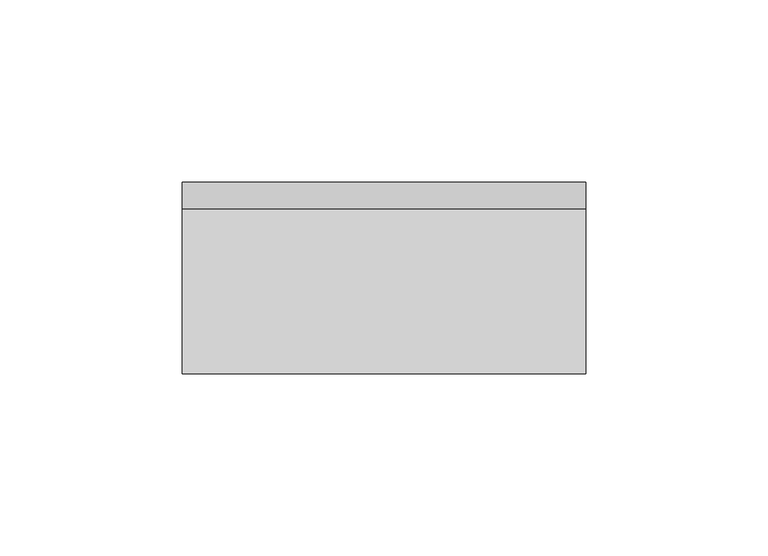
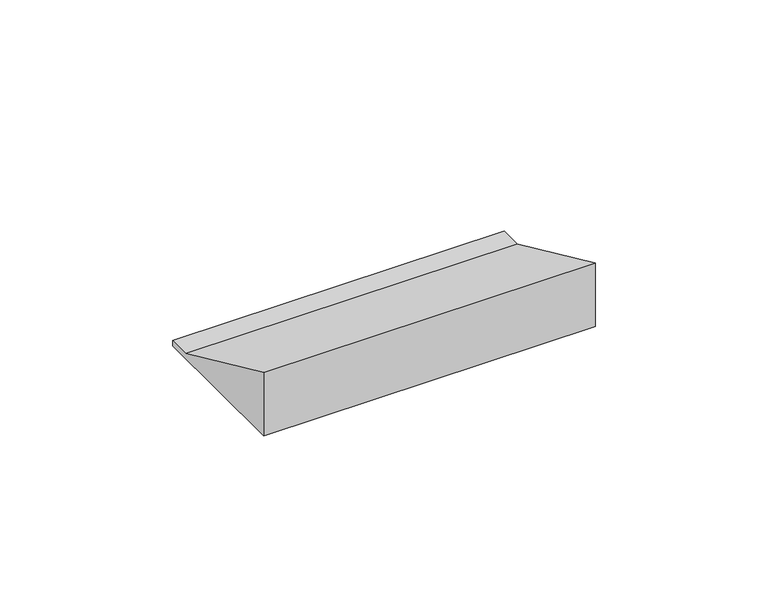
"""IFC4 building model written with IfcOpenShell, lengths in millimetres: proxy geometry, Device_Plate-Resource_Series-Wiremold-RFB4 : Either, For Two Extron AAP Series Devices, WTB-AAP."""

import ifcopenshell
import ifcopenshell.guid

model = None  # the IFC model being written
_history = None  # IfcOwnerHistory: only IFC2X3 demands one
_inside = {}  # id of a spatial element -> (the spatial element, [elements in it])
_under = {}  # id of a project, library or spatial element -> (it, [spatial elements below it])
_declared = {}  # id of a project -> (the project, [libraries it declares])
_typed = {}  # id of a type object -> (the type object, [elements of that type])
_made_of = {}  # id of a material, layer set ... -> (it, [elements and type objects made of it])


def new_model(schema):
    """Start an empty IFC model of exactly this schema.

    Asked for "IFC4X3", IfcOpenShell would pick the latest addendum, in which some entities
    have other attributes; the version numbers below select the first issue.
    IFC2X3 requires an IfcOwnerHistory on every rooted entity: one is made here for all.
    """
    global model, _history
    if schema == "IFC4X3":
        model = ifcopenshell.file(schema_version=(4, 3, 0, 0))
    else:
        model = ifcopenshell.file(schema=schema)
    _inside.clear()
    _under.clear()
    _declared.clear()
    _typed.clear()
    _made_of.clear()
    _history = None
    if model.schema == "IFC2X3":
        org = make("IfcOrganization", Name="unknown")
        user = make(
            "IfcPersonAndOrganization",
            ThePerson=make("IfcPerson", FamilyName="unknown"),
            TheOrganization=org,
        )
        app = make(
            "IfcApplication",
            ApplicationDeveloper=org,
            Version="unknown",
            ApplicationFullName="unknown",
            ApplicationIdentifier="unknown",
        )
        _history = make(
            "IfcOwnerHistory",
            OwningUser=user,
            OwningApplication=app,
            ChangeAction="ADDED",
            CreationDate=0,
        )
    return model


def make(cls, **values):
    """One entity of the class cls with the attributes given. An attribute that is None is left unset."""
    return model.create_entity(
        cls, **{name: value for name, value in values.items() if value is not None}
    )


def rooted(cls, **values):
    """An entity with a GlobalId (a new one), such as an element, a storey or a relation."""
    return make(cls, GlobalId=ifcopenshell.guid.new(), OwnerHistory=_history, **values)


def si_unit(unit_type, name, prefix=None):
    """IfcSIUnit, for example si_unit("LENGTHUNIT", "METRE", prefix="MILLI")."""
    return make("IfcSIUnit", UnitType=unit_type, Prefix=prefix, Name=name)


def assignment(units):
    """IfcUnitAssignment: the units of a project."""
    return None if units is None else make("IfcUnitAssignment", Units=units)


def point(xyz):
    """IfcCartesianPoint."""
    return None if xyz is None else make("IfcCartesianPoint", Coordinates=xyz)


def direction(xyz):
    """IfcDirection."""
    return None if xyz is None else make("IfcDirection", DirectionRatios=xyz)


def frame(location, z_axis=None, x_axis=None):
    """IfcAxis2Placement3D, a coordinate frame: its origin and axes. An axis left out is left unset."""
    return make(
        "IfcAxis2Placement3D",
        Location=point(location),
        Axis=direction(z_axis),
        RefDirection=direction(x_axis),
    )


def origin():
    """The frame at (0, 0, 0) with its axes left unset."""
    return frame((0.0, 0.0, 0.0))


def place(relative_to, where):
    """IfcLocalPlacement: puts the frame where relative to a parent placement (None: the world)."""
    return make(
        "IfcLocalPlacement", PlacementRelTo=relative_to, RelativePlacement=where
    )


def context(
    kind, dimensions, precision=None, world=None, true_north=None, identifier=None
):
    """IfcGeometricRepresentationContext, for example the 3D "Model" context."""
    return make(
        "IfcGeometricRepresentationContext",
        ContextIdentifier=identifier,
        ContextType=kind,
        CoordinateSpaceDimension=dimensions,
        Precision=precision,
        WorldCoordinateSystem=world,
        TrueNorth=true_north,
    )


def project(units=None, contexts=None):
    """IfcProject with its units and contexts."""
    return rooted(
        "IfcProject",
        Name="project",
        RepresentationContexts=contexts,
        UnitsInContext=assignment(units),
    )


def spatial(cls, under=None, at=None, **own):
    """A site, building, storey or space (cls), placed at a placement, below another one or the project."""
    s = rooted(cls, ObjectPlacement=at, **own)
    if under is not None:
        _under.setdefault(under.id(), (under, []))[1].append(s)
    return s


def polyline(points):
    """IfcPolyline through the points."""
    return make("IfcPolyline", Points=[point(p) for p in points])


def outline(outer, holes=None, kind="AREA"):
    """IfcArbitraryClosedProfileDef: a profile drawn as a closed curve; with holes, ...WithVoids."""
    if holes is None:
        return make("IfcArbitraryClosedProfileDef", ProfileType=kind, OuterCurve=outer)
    return make(
        "IfcArbitraryProfileDefWithVoids",
        ProfileType=kind,
        OuterCurve=outer,
        InnerCurves=holes,
    )


def extrude(swept, where, along, depth):
    """IfcExtrudedAreaSolid: the profile swept, set in the frame where, extruded along a direction by depth."""
    return make(
        "IfcExtrudedAreaSolid",
        SweptArea=swept,
        Position=where,
        ExtrudedDirection=direction(along),
        Depth=depth,
    )


def shape(context_of_items, identifier, shape_type, items):
    """IfcShapeRepresentation: the items that make up one representation, for example the "Body"."""
    return make(
        "IfcShapeRepresentation",
        ContextOfItems=context_of_items,
        RepresentationIdentifier=identifier,
        RepresentationType=shape_type,
        Items=items,
    )


def source(mapping_origin, context_of_items, identifier, shape_type, items):
    """IfcRepresentationMap: a shape defined once, which mapped items show again and again."""
    return make(
        "IfcRepresentationMap",
        MappingOrigin=mapping_origin,
        MappedRepresentation=shape(context_of_items, identifier, shape_type, items),
    )


def transform(
    local_origin,
    x_axis=None,
    y_axis=None,
    z_axis=None,
    scale=None,
    scale2=None,
    scale3=None,
    uniform=True,
):
    """IfcCartesianTransformationOperator3D, or its non-uniform kind. x_axis, y_axis, z_axis: its Axis1, 2, 3."""
    if uniform:
        return make(
            "IfcCartesianTransformationOperator3D",
            Axis1=direction(x_axis),
            Axis2=direction(y_axis),
            LocalOrigin=point(local_origin),
            Scale=scale,
            Axis3=direction(z_axis),
        )
    return make(
        "IfcCartesianTransformationOperator3DnonUniform",
        Axis1=direction(x_axis),
        Axis2=direction(y_axis),
        LocalOrigin=point(local_origin),
        Scale=scale,
        Axis3=direction(z_axis),
        Scale2=scale2,
        Scale3=scale3,
    )


def mapped(mapping_source, mapping_target):
    """IfcMappedItem: shows the shape of a source again, moved by a transform."""
    return make(
        "IfcMappedItem", MappingSource=mapping_source, MappingTarget=mapping_target
    )


def made_of(thing, what):
    """Note that an element or type object is made of a material, layer set ...; save() writes the relation."""
    if what is not None:
        _made_of.setdefault(what.id(), (what, []))[1].append(thing)
    return thing


def element(
    cls,
    number,
    at=None,
    inside=None,
    cuts=None,
    type_object=None,
    material=None,
    context=None,
    identifier="Body",
    shape_type=None,
    held_by="IfcProductDefinitionShape",
    body=None,
    shapes=None,
    **own,
):
    """One element of the class cls, such as IfcWall. Its Tag is "e" and its number.

    at: its placement. inside: the storey or other place that contains it. cuts: it is an
    opening in that element (IfcRelVoidsElement). A single representation is given by context,
    identifier, shape_type and body (its items); several are given by shapes. held_by: the class
    of the entity that holds the representations. save() writes the other relations.
    """
    e = rooted(cls, Tag="e%d" % number, ObjectPlacement=at, **own)
    if body is not None:
        shapes = [shape(context, identifier, shape_type, body)]
    if shapes is not None:
        e.Representation = make(held_by, Representations=shapes)
    if inside is not None:
        _inside.setdefault(inside.id(), (inside, []))[1].append(e)
    if cuts is not None:
        rooted(
            "IfcRelVoidsElement", RelatingBuildingElement=cuts, RelatedOpeningElement=e
        )
    if type_object is not None:
        _typed.setdefault(type_object.id(), (type_object, []))[1].append(e)
    return made_of(e, material)


def aggregate(whole, parts):
    """IfcRelAggregates: a whole, such as a stair, and the parts it consists of."""
    return rooted("IfcRelAggregates", RelatingObject=whole, RelatedObjects=parts)


def save(model, path):
    """Write the relations noted so far, then the file.

    IfcRelAggregates (storeys below a building ...), IfcRelContainedInSpatialStructure (elements
    in a storey), IfcRelDefinesByType, IfcRelAssociatesMaterial and IfcRelDeclares: one each for
    every whole, place, type object, material and project.
    """
    for whole, parts in _under.values():
        aggregate(whole, parts)
    for where, things in _inside.values():
        rooted(
            "IfcRelContainedInSpatialStructure",
            RelatedElements=things,
            RelatingStructure=where,
        )
    for kind, things in _typed.values():
        rooted("IfcRelDefinesByType", RelatedObjects=things, RelatingType=kind)
    for what, things in _made_of.values():
        rooted("IfcRelAssociatesMaterial", RelatedObjects=things, RelatingMaterial=what)
    for by, libraries in _declared.values():
        rooted("IfcRelDeclares", RelatingContext=by, RelatedDefinitions=libraries)
    model.write(path)


def electrical_fixtures_02c921e2(model_context):
    return source(origin(), model_context, "Body", "SweptSolid", [
        extrude(outline(polyline([(-798.5564237, 0.0), (-851.1344237, 0.0), (-851.1344237, 22.430086), (-806.0375698, 1.8034), (-798.5564237, 1.8034), (-798.5564237, 0.0)])), frame((-54.1274, 0.0, 0.0), z_axis=(1.0, 0.0, 0.0), x_axis=(0.0, 1.0, 0.0)), (0.0, 0.0, 1.0), 110.7948),
    ])


if __name__ == "__main__":
    model = new_model("IFC4")
    model_context = context("Model", 3, world=origin())
    ifc_project = project(units=[si_unit("LENGTHUNIT", "METRE", prefix="MILLI")], contexts=[model_context])
    site = spatial("IfcSite", under=ifc_project)
    building = spatial("IfcBuilding", under=site)
    placement = place(None, origin())
    electrical_fixtures_shape = electrical_fixtures_02c921e2(model_context)
    element("IfcBuildingElementProxy", 1, Name="Device_Plate-Resource_Series-Wiremold-RFB4 : Either, For Two Extron AAP Series Devices, WTB-AAP", ObjectType="Device_Plate-Resource_Series-Wiremold-RFB4 : Either, For Two Extron AAP Series Devices, WTB-AAP", at=placement, inside=building, context=model_context, shape_type="MappedRepresentation", body=[
        mapped(electrical_fixtures_shape, transform((0.0, 0.0, 0.0), x_axis=(1.0, 0.0, 0.0), y_axis=(0.0, 1.0, 0.0), z_axis=(0.0, 0.0, 1.0))),
    ])
    save(model, "model.ifc")
